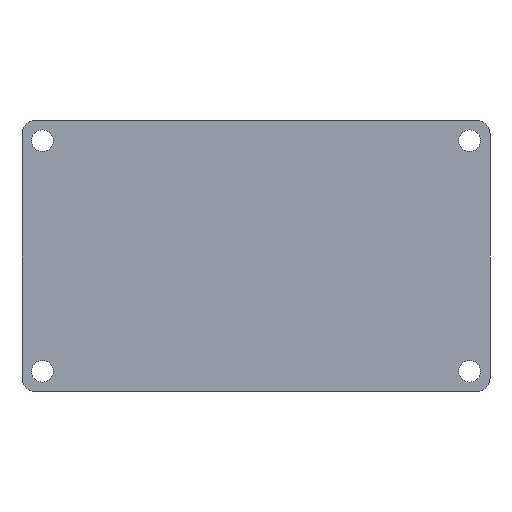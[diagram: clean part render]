
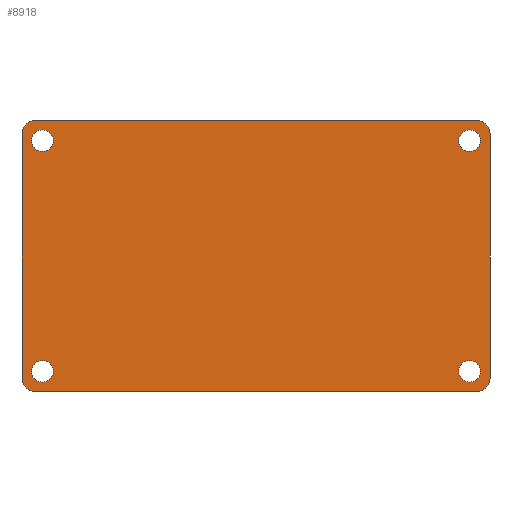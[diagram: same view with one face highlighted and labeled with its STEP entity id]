
A CAD part, front view. The second image highlights one B-rep face of the part: STEP entity #8918.
In plain terms, the highlighted planar face has unit normal (0, -1, 0).
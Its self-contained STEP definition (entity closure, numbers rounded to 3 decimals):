
#225 = AXIS2_PLACEMENT_3D ( 'NONE', #6987, #7077, #5970 ) ;
#497 = CARTESIAN_POINT ( 'NONE',  ( 31.5, -4., -15.4 ) ) ;
#511 = VERTEX_POINT ( 'NONE', #497 ) ;
#523 = AXIS2_PLACEMENT_3D ( 'NONE', #11882, #5447, #8732 ) ;
#817 = DIRECTION ( 'NONE',  ( 0., 0., 1. ) ) ;
#881 = VERTEX_POINT ( 'NONE', #13223 ) ;
#951 = DIRECTION ( 'NONE',  ( -1., 0., 0. ) ) ;
#963 = ORIENTED_EDGE ( 'NONE', *, *, #14138, .F. ) ;
#979 = AXIS2_PLACEMENT_3D ( 'NONE', #8919, #2291, #11036 ) ;
#1030 = VERTEX_POINT ( 'NONE', #2200 ) ;
#1056 = FACE_OUTER_BOUND ( 'NONE', #3247, .T. ) ;
#1213 = EDGE_CURVE ( 'NONE', #5985, #3911, #13254, .T. ) ;
#1272 = ORIENTED_EDGE ( 'NONE', *, *, #1213, .T. ) ;
#1538 = DIRECTION ( 'NONE',  ( 0., 0., -1. ) ) ;
#1717 = LINE ( 'NONE', #4191, #5512 ) ;
#1726 = DIRECTION ( 'NONE',  ( 0., 0., -1. ) ) ;
#1820 = CARTESIAN_POINT ( 'NONE',  ( -34.5, -4., 20. ) ) ;
#1844 = EDGE_CURVE ( 'NONE', #881, #13598, #12705, .T. ) ;
#2200 = CARTESIAN_POINT ( 'NONE',  ( 34.5, -4., 18. ) ) ;
#2239 = VERTEX_POINT ( 'NONE', #2533 ) ;
#2283 = EDGE_LOOP ( 'NONE', ( #7909 ) ) ;
#2291 = DIRECTION ( 'NONE',  ( 0., 1., 0. ) ) ;
#2297 = CIRCLE ( 'NONE', #12097, 1.6 ) ;
#2533 = CARTESIAN_POINT ( 'NONE',  ( 31.5, -4., 18.6 ) ) ;
#2572 = DIRECTION ( 'NONE',  ( 0., -1., 0. ) ) ;
#2617 = VERTEX_POINT ( 'NONE', #5392 ) ;
#2647 = CARTESIAN_POINT ( 'NONE',  ( 32.5, -4., -20. ) ) ;
#2826 = LINE ( 'NONE', #5830, #4718 ) ;
#3072 = CARTESIAN_POINT ( 'NONE',  ( -34.5, -4., -20. ) ) ;
#3247 = EDGE_LOOP ( 'NONE', ( #12747, #4021, #6563, #10355, #963, #1272, #7305, #8733 ) ) ;
#3328 = CARTESIAN_POINT ( 'NONE',  ( -32.5, -4., -20. ) ) ;
#3383 = DIRECTION ( 'NONE',  ( 0., 0., 1. ) ) ;
#3488 = EDGE_CURVE ( 'NONE', #511, #511, #7262, .T. ) ;
#3825 = CARTESIAN_POINT ( 'NONE',  ( 31.5, -4., 17. ) ) ;
#3862 = EDGE_CURVE ( 'NONE', #1030, #8048, #8150, .T. ) ;
#3868 = DIRECTION ( 'NONE',  ( 0., 1., 0. ) ) ;
#3911 = VERTEX_POINT ( 'NONE', #8041 ) ;
#4021 = ORIENTED_EDGE ( 'NONE', *, *, #1844, .T. ) ;
#4191 = CARTESIAN_POINT ( 'NONE',  ( -34.5, -4., 20. ) ) ;
#4255 = DIRECTION ( 'NONE',  ( 0., 0., -1. ) ) ;
#4297 = CIRCLE ( 'NONE', #13167, 2. ) ;
#4436 = CARTESIAN_POINT ( 'NONE',  ( -34.5, -4., 18. ) ) ;
#4718 = VECTOR ( 'NONE', #1538, 1000. ) ;
#4722 = ORIENTED_EDGE ( 'NONE', *, *, #6884, .T. ) ;
#4922 = CARTESIAN_POINT ( 'NONE',  ( 0., -4., 0. ) ) ;
#4958 = CARTESIAN_POINT ( 'NONE',  ( -32.5, -4., -18. ) ) ;
#5392 = CARTESIAN_POINT ( 'NONE',  ( -34.5, -4., -18. ) ) ;
#5447 = DIRECTION ( 'NONE',  ( 0., 1., 0. ) ) ;
#5483 = EDGE_CURVE ( 'NONE', #10889, #10889, #13988, .T. ) ;
#5512 = VECTOR ( 'NONE', #10861, 1000. ) ;
#5600 = EDGE_CURVE ( 'NONE', #881, #8048, #1717, .T. ) ;
#5730 = AXIS2_PLACEMENT_3D ( 'NONE', #4922, #2572, #7143 ) ;
#5830 = CARTESIAN_POINT ( 'NONE',  ( 34.5, -4., 20. ) ) ;
#5970 = DIRECTION ( 'NONE',  ( 0., 0., -1. ) ) ;
#5985 = VERTEX_POINT ( 'NONE', #2647 ) ;
#6099 = CARTESIAN_POINT ( 'NONE',  ( -31.5, -4., 18.6 ) ) ;
#6563 = ORIENTED_EDGE ( 'NONE', *, *, #7149, .F. ) ;
#6742 = LINE ( 'NONE', #3072, #11932 ) ;
#6884 = EDGE_CURVE ( 'NONE', #2239, #2239, #2297, .T. ) ;
#6888 = CARTESIAN_POINT ( 'NONE',  ( -31.5, -4., 17. ) ) ;
#6987 = CARTESIAN_POINT ( 'NONE',  ( 32.5, -4., 18. ) ) ;
#7077 = DIRECTION ( 'NONE',  ( 0., -1., 0. ) ) ;
#7138 = DIRECTION ( 'NONE',  ( 0., 0., 1. ) ) ;
#7143 = DIRECTION ( 'NONE',  ( 0., 0., -1. ) ) ;
#7149 = EDGE_CURVE ( 'NONE', #2617, #13598, #8009, .T. ) ;
#7262 = CIRCLE ( 'NONE', #979, 1.6 ) ;
#7305 = ORIENTED_EDGE ( 'NONE', *, *, #7466, .F. ) ;
#7433 = FACE_BOUND ( 'NONE', #11326, .T. ) ;
#7466 = EDGE_CURVE ( 'NONE', #1030, #3911, #2826, .T. ) ;
#7633 = FACE_BOUND ( 'NONE', #8598, .T. ) ;
#7896 = VERTEX_POINT ( 'NONE', #3328 ) ;
#7909 = ORIENTED_EDGE ( 'NONE', *, *, #5483, .T. ) ;
#8009 = LINE ( 'NONE', #1820, #13554 ) ;
#8041 = CARTESIAN_POINT ( 'NONE',  ( 34.5, -4., -18. ) ) ;
#8048 = VERTEX_POINT ( 'NONE', #11430 ) ;
#8137 = CARTESIAN_POINT ( 'NONE',  ( -32.5, -4., 18. ) ) ;
#8150 = CIRCLE ( 'NONE', #225, 2. ) ;
#8334 = DIRECTION ( 'NONE',  ( 0., -1., 0. ) ) ;
#8420 = AXIS2_PLACEMENT_3D ( 'NONE', #13196, #10773, #4255 ) ;
#8598 = EDGE_LOOP ( 'NONE', ( #13175 ) ) ;
#8732 = DIRECTION ( 'NONE',  ( 0., 0., 1. ) ) ;
#8733 = ORIENTED_EDGE ( 'NONE', *, *, #3862, .T. ) ;
#8799 = VERTEX_POINT ( 'NONE', #6099 ) ;
#8918 = ADVANCED_FACE ( 'NONE', ( #7633, #7433, #13861, #14187, #1056 ), #9244, .T. ) ;
#8919 = CARTESIAN_POINT ( 'NONE',  ( 31.5, -4., -17. ) ) ;
#9195 = AXIS2_PLACEMENT_3D ( 'NONE', #6888, #10094, #3383 ) ;
#9244 = PLANE ( 'NONE',  #5730 ) ;
#10007 = CIRCLE ( 'NONE', #9195, 1.6 ) ;
#10094 = DIRECTION ( 'NONE',  ( 0., 1., 0. ) ) ;
#10355 = ORIENTED_EDGE ( 'NONE', *, *, #11165, .T. ) ;
#10773 = DIRECTION ( 'NONE',  ( 0., -1., 0. ) ) ;
#10842 = AXIS2_PLACEMENT_3D ( 'NONE', #8137, #11397, #12441 ) ;
#10861 = DIRECTION ( 'NONE',  ( 1., 0., 0. ) ) ;
#10889 = VERTEX_POINT ( 'NONE', #11423 ) ;
#11036 = DIRECTION ( 'NONE',  ( 0., 0., 1. ) ) ;
#11165 = EDGE_CURVE ( 'NONE', #2617, #7896, #4297, .T. ) ;
#11326 = EDGE_LOOP ( 'NONE', ( #4722 ) ) ;
#11397 = DIRECTION ( 'NONE',  ( 0., -1., 0. ) ) ;
#11423 = CARTESIAN_POINT ( 'NONE',  ( -31.5, -4., -15.4 ) ) ;
#11430 = CARTESIAN_POINT ( 'NONE',  ( 32.5, -4., 20. ) ) ;
#11612 = EDGE_LOOP ( 'NONE', ( #13578 ) ) ;
#11708 = EDGE_CURVE ( 'NONE', #8799, #8799, #10007, .T. ) ;
#11882 = CARTESIAN_POINT ( 'NONE',  ( -31.5, -4., -17. ) ) ;
#11932 = VECTOR ( 'NONE', #951, 1000. ) ;
#12097 = AXIS2_PLACEMENT_3D ( 'NONE', #3825, #3868, #7138 ) ;
#12441 = DIRECTION ( 'NONE',  ( 0., 0., -1. ) ) ;
#12705 = CIRCLE ( 'NONE', #10842, 2. ) ;
#12747 = ORIENTED_EDGE ( 'NONE', *, *, #5600, .F. ) ;
#13167 = AXIS2_PLACEMENT_3D ( 'NONE', #4958, #8334, #1726 ) ;
#13175 = ORIENTED_EDGE ( 'NONE', *, *, #11708, .T. ) ;
#13196 = CARTESIAN_POINT ( 'NONE',  ( 32.5, -4., -18. ) ) ;
#13223 = CARTESIAN_POINT ( 'NONE',  ( -32.5, -4., 20. ) ) ;
#13254 = CIRCLE ( 'NONE', #8420, 2. ) ;
#13554 = VECTOR ( 'NONE', #817, 1000. ) ;
#13578 = ORIENTED_EDGE ( 'NONE', *, *, #3488, .T. ) ;
#13598 = VERTEX_POINT ( 'NONE', #4436 ) ;
#13861 = FACE_BOUND ( 'NONE', #11612, .T. ) ;
#13988 = CIRCLE ( 'NONE', #523, 1.6 ) ;
#14138 = EDGE_CURVE ( 'NONE', #5985, #7896, #6742, .T. ) ;
#14187 = FACE_BOUND ( 'NONE', #2283, .T. ) ;
